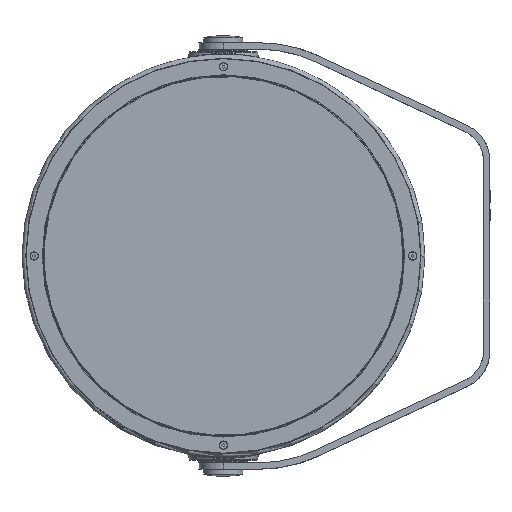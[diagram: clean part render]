
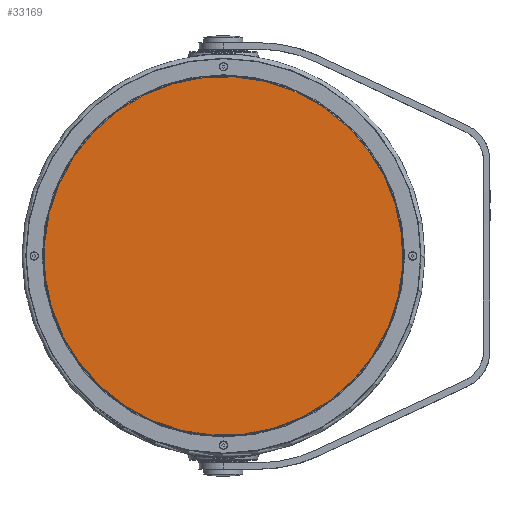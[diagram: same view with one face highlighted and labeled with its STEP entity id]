
A CAD part, top view. The second image highlights one B-rep face of the part: STEP entity #33169.
In plain terms, the highlighted planar face has unit normal (0, 0, 1).
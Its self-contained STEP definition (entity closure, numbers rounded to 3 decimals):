
#4072=PLANE('',#34924);
#6084=ORIENTED_EDGE('',*,*,#12225,.T.);
#12225=EDGE_CURVE('',#15409,#15409,#17168,.T.);
#15409=VERTEX_POINT('',#77831);
#17168=CIRCLE('',#34922,138.);
#18497=EDGE_LOOP('',(#6084));
#20360=FACE_BOUND('',#18497,.T.);
#33169=ADVANCED_FACE('',(#20360),#4072,.F.);
#34922=AXIS2_PLACEMENT_3D('',#77830,#38098,#38099);
#34924=AXIS2_PLACEMENT_3D('',#77833,#38102,#38103);
#38098=DIRECTION('',(0.,0.,1.));
#38099=DIRECTION('',(0.994,0.113,0.));
#38102=DIRECTION('',(0.,0.,-1.));
#38103=DIRECTION('',(0.994,0.113,0.));
#77830=CARTESIAN_POINT('',(0.,0.,53.499));
#77831=CARTESIAN_POINT('',(137.112,15.626,53.499));
#77833=CARTESIAN_POINT('',(-137.609,-15.683,53.499));
